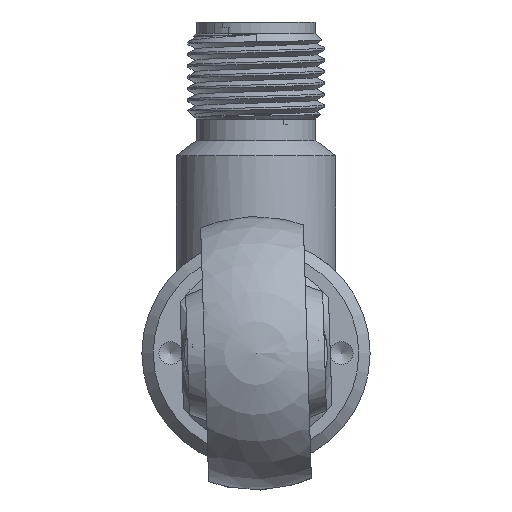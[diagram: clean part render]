
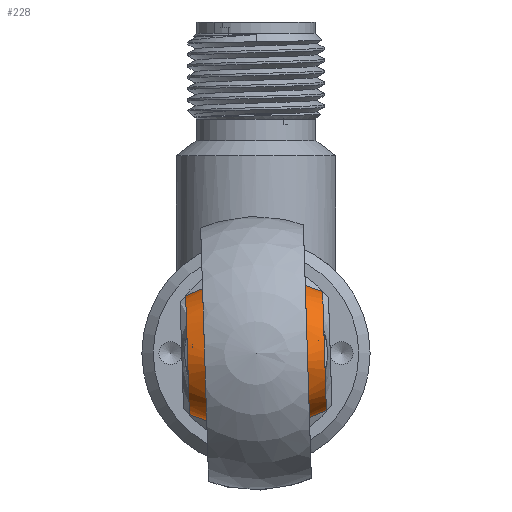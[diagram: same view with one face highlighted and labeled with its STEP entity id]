
A CAD part, left-side view. The second image highlights one B-rep face of the part: STEP entity #228.
In plain terms, the highlighted free-form (B-spline) face has degree [3, 3] with [4, 7] control points.
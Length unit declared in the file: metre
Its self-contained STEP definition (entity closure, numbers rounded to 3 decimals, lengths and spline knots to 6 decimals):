
#228 = ADVANCED_FACE( '', ( #513, #514 ), #515, .T. );
#513 = FACE_OUTER_BOUND( '', #953, .T. );
#514 = FACE_OUTER_BOUND( '', #954, .T. );
#515 = ( B_SPLINE_SURFACE( 3, 3, ( ( #956, #957, #958, #959, #960, #961, #962 ), ( #963, #964, #965, #966, #967, #968, #969 ), ( #970, #971, #972, #973, #974, #975, #976 ), ( #977, #978, #979, #980, #981, #982, #983 ) ), .UNSPECIFIED., .F., .T., .F. )B_SPLINE_SURFACE_WITH_KNOTS( ( 4, 4 ), ( 4, 3, 4 ), ( 0., 6.283185 ), ( -0.582914, 0., 0.582914 ), .UNSPECIFIED. )RATIONAL_B_SPLINE_SURFACE( ( ( 1., 0.333, 0.333, 1., 0.333, 0.333, 1. ), ( 0.89, 0.297, 0.297, 0.89, 0.297, 0.297, 0.89 ), ( 0.89, 0.297, 0.297, 0.89, 0.297, 0.297, 0.89 ), ( 1., 0.333, 0.333, 1., 0.333, 0.333, 1. ) ) )BOUNDED_SURFACE(  )REPRESENTATION_ITEM( '' )GEOMETRIC_REPRESENTATION_ITEM(  )SURFACE(  ) );
#953 = EDGE_LOOP( '', ( #2678 ) );
#954 = EDGE_LOOP( '', ( #2679 ) );
#956 = CARTESIAN_POINT( '', ( -0.284857, 0.006021, 0.00058 ) );
#957 = CARTESIAN_POINT( '', ( -0.283318, 0.005697, -0.0097 ) );
#958 = CARTESIAN_POINT( '', ( -0.293603, 0.005648, -0.011239 ) );
#959 = CARTESIAN_POINT( '', ( -0.295143, 0.005973, -0.000959 ) );
#960 = CARTESIAN_POINT( '', ( -0.296682, 0.006297, 0.009322 ) );
#961 = CARTESIAN_POINT( '', ( -0.286397, 0.006346, 0.01086 ) );
#962 = CARTESIAN_POINT( '', ( -0.284857, 0.006021, 0.00058 ) );
#963 = CARTESIAN_POINT( '', ( -0.28241, 0.002282, 0.001065 ) );
#964 = CARTESIAN_POINT( '', ( -0.280138, 0.001803, -0.014107 ) );
#965 = CARTESIAN_POINT( '', ( -0.295318, 0.001732, -0.016378 ) );
#966 = CARTESIAN_POINT( '', ( -0.29759, 0.00221, -0.001206 ) );
#967 = CARTESIAN_POINT( '', ( -0.299862, 0.002689, 0.013965 ) );
#968 = CARTESIAN_POINT( '', ( -0.284682, 0.002761, 0.016236 ) );
#969 = CARTESIAN_POINT( '', ( -0.28241, 0.002282, 0.001065 ) );
#970 = CARTESIAN_POINT( '', ( -0.28241, -0.00221, 0.001206 ) );
#971 = CARTESIAN_POINT( '', ( -0.280138, -0.002689, -0.013965 ) );
#972 = CARTESIAN_POINT( '', ( -0.295318, -0.002761, -0.016236 ) );
#973 = CARTESIAN_POINT( '', ( -0.29759, -0.002282, -0.001065 ) );
#974 = CARTESIAN_POINT( '', ( -0.299862, -0.001803, 0.014107 ) );
#975 = CARTESIAN_POINT( '', ( -0.284682, -0.001732, 0.016378 ) );
#976 = CARTESIAN_POINT( '', ( -0.28241, -0.00221, 0.001206 ) );
#977 = CARTESIAN_POINT( '', ( -0.284857, -0.005973, 0.000959 ) );
#978 = CARTESIAN_POINT( '', ( -0.283318, -0.006297, -0.009322 ) );
#979 = CARTESIAN_POINT( '', ( -0.293603, -0.006346, -0.01086 ) );
#980 = CARTESIAN_POINT( '', ( -0.295143, -0.006021, -0.00058 ) );
#981 = CARTESIAN_POINT( '', ( -0.296682, -0.005697, 0.0097 ) );
#982 = CARTESIAN_POINT( '', ( -0.286397, -0.005648, 0.011239 ) );
#983 = CARTESIAN_POINT( '', ( -0.284857, -0.005973, 0.000959 ) );
#2678 = ORIENTED_EDGE( '', *, *, #3463, .F. );
#2679 = ORIENTED_EDGE( '', *, *, #3464, .T. );
#3463 = EDGE_CURVE( '', #4021, #4021, #4022, .T. );
#3464 = EDGE_CURVE( '', #4023, #4023, #4024, .T. );
#4021 = VERTEX_POINT( '', #5253 );
#4022 = CIRCLE( '', #5254, 0.0052 );
#4023 = VERTEX_POINT( '', #5255 );
#4024 = CIRCLE( '', #5256, 0.0052 );
#5253 = CARTESIAN_POINT( '', ( -0.284857, 0.006021, 0.00058 ) );
#5254 = AXIS2_PLACEMENT_3D( '', #9374, #9375, #9376 );
#5255 = CARTESIAN_POINT( '', ( -0.284857, -0.005973, 0.000959 ) );
#5256 = AXIS2_PLACEMENT_3D( '', #9377, #9378, #9379 );
#9374 = CARTESIAN_POINT( '', ( -0.29, 0.005997, -0.000189 ) );
#9375 = DIRECTION( '', ( 0., 1., -0.032 ) );
#9376 = DIRECTION( '', ( 0.989, 0.005, 0.148 ) );
#9377 = CARTESIAN_POINT( '', ( -0.29, -0.005997, 0.000189 ) );
#9378 = DIRECTION( '', ( 0., 1., -0.032 ) );
#9379 = DIRECTION( '', ( 0.989, 0.005, 0.148 ) );
